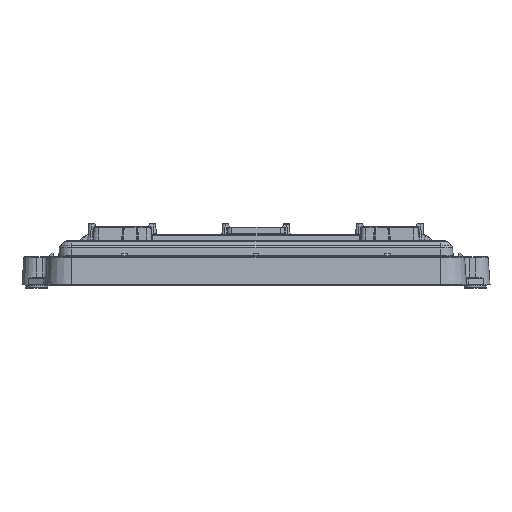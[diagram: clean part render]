
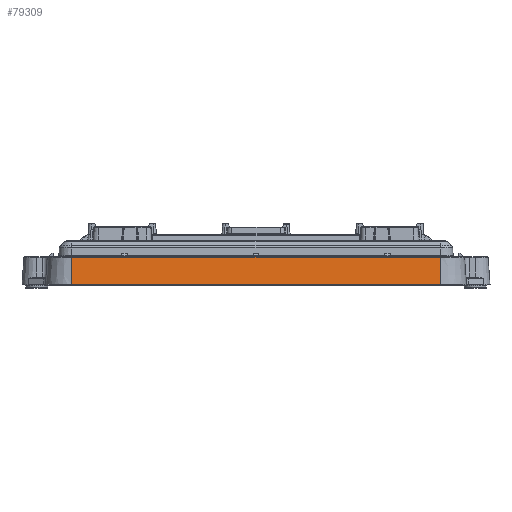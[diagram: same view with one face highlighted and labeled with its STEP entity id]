
A CAD part, top view. The second image highlights one B-rep face of the part: STEP entity #79309.
In plain terms, the highlighted planar face has unit normal (0, 0.07, 0.998).
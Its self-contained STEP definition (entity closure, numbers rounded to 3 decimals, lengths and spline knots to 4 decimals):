
#462 = EDGE_CURVE ( 'NONE', #11762, #531, #127819, .T. ) ;
#531 = VERTEX_POINT ( 'NONE', #78904 ) ;
#7099 = VECTOR ( 'NONE', #90297, 39.3701 ) ;
#9518 = CARTESIAN_POINT ( 'NONE',  ( 4.4094, 0.651, 3.9407 ) ) ;
#11689 = CARTESIAN_POINT ( 'NONE',  ( -4.4094, 0.651, 3.9407 ) ) ;
#11762 = VERTEX_POINT ( 'NONE', #23911 ) ;
#14886 = EDGE_CURVE ( 'NONE', #531, #63227, #36253, .T. ) ;
#17073 = CARTESIAN_POINT ( 'NONE',  ( -5.0394, 0., 3.9862 ) ) ;
#18844 = DIRECTION ( 'NONE',  ( 0., -0.998, 0.07 ) ) ;
#23911 = CARTESIAN_POINT ( 'NONE',  ( -4.4094, 0., 3.9862 ) ) ;
#30805 = VECTOR ( 'NONE', #111712, 39.3701 ) ;
#31675 = DIRECTION ( 'NONE',  ( 0., 0.998, -0.07 ) ) ;
#35159 = ORIENTED_EDGE ( 'NONE', *, *, #62673, .T. ) ;
#36253 = LINE ( 'NONE', #101643, #98373 ) ;
#36535 = VECTOR ( 'NONE', #18844, 39.3701 ) ;
#38105 = PLANE ( 'NONE',  #119274 ) ;
#48622 = ORIENTED_EDGE ( 'NONE', *, *, #14886, .T. ) ;
#49894 = DIRECTION ( 'NONE',  ( 0., 0.07, 0.998 ) ) ;
#50164 = EDGE_LOOP ( 'NONE', ( #48622, #60697, #35159, #146543 ) ) ;
#51138 = VERTEX_POINT ( 'NONE', #11689 ) ;
#55091 = CARTESIAN_POINT ( 'NONE',  ( -4.4094, 0.651, 3.9407 ) ) ;
#60697 = ORIENTED_EDGE ( 'NONE', *, *, #115781, .T. ) ;
#62673 = EDGE_CURVE ( 'NONE', #51138, #11762, #71155, .T. ) ;
#63227 = VERTEX_POINT ( 'NONE', #9518 ) ;
#71155 = LINE ( 'NONE', #136047, #36535 ) ;
#78904 = CARTESIAN_POINT ( 'NONE',  ( 4.4094, 0., 3.9862 ) ) ;
#79309 = ADVANCED_FACE ( 'NONE', ( #123433 ), #38105, .T. ) ;
#90297 = DIRECTION ( 'NONE',  ( -1., 0., 0. ) ) ;
#98373 = VECTOR ( 'NONE', #31675, 39.3701 ) ;
#100398 = LINE ( 'NONE', #55091, #7099 ) ;
#101643 = CARTESIAN_POINT ( 'NONE',  ( 4.4094, 0., 3.9862 ) ) ;
#111712 = DIRECTION ( 'NONE',  ( 1., 0., 0. ) ) ;
#115781 = EDGE_CURVE ( 'NONE', #63227, #51138, #100398, .T. ) ;
#119274 = AXIS2_PLACEMENT_3D ( 'NONE', #119868, #49894, #131665 ) ;
#119868 = CARTESIAN_POINT ( 'NONE',  ( -5.0394, 0., 3.9862 ) ) ;
#123433 = FACE_OUTER_BOUND ( 'NONE', #50164, .T. ) ;
#127819 = LINE ( 'NONE', #17073, #30805 ) ;
#131665 = DIRECTION ( 'NONE',  ( 0., -0.998, 0.07 ) ) ;
#136047 = CARTESIAN_POINT ( 'NONE',  ( -4.4094, 0., 3.9862 ) ) ;
#146543 = ORIENTED_EDGE ( 'NONE', *, *, #462, .T. ) ;
